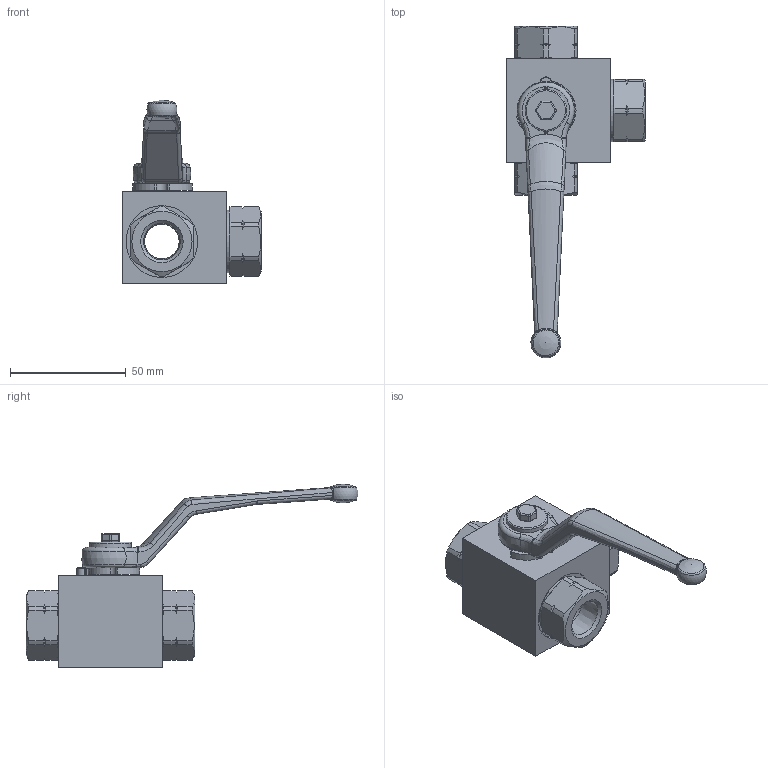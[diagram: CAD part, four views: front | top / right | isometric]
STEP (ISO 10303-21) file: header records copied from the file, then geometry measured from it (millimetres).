
FILE_DESCRIPTION( ( 'Unknown' ), '1' );
FILE_NAME( 'H:/PISTER/3D-MODELLE/BK3-Edelstahl stp/BK3-Edelst DN10 3_8 NPT.stp', 'Unknown', ( 'Unknown' ), ( 'Unknown' ), 'PSStep 14.0', 'Unknown', ' ' );
FILE_SCHEMA( ( 'AUTOMOTIVE_DESIGN { 1 0 10303 214 1 1 1 1 }' ) );
Length unit declared in the file: millimetre
Products named in the file (11): Assem1; 09-09-003; 58-28740-16-oa2; 58-0440-009; 58-0933-235; 03-010-003-oa4; 04-010-051-oa5; 04-010-051-oa6; 56-032-101-oa11; Griff_SW9; 01-010-067-oa12
Assembly tree (10 placements, depth 2):
  Assem1
    09-09-003
    58-28740-16-oa2
    58-0440-009
    58-0933-235
    03-010-003-oa4
    04-010-051-oa5
    04-010-051-oa6
    56-032-101-oa11
    Griff_SW9
    01-010-067-oa12
Bounding box: 60 x 143.5 x 79.3 mm (x, y, z)
Volume: 84945.9 mm3; surface area: 33763.3 mm2
Topology: 10 solids, 10 shells, 402 faces, 1032 edges, 655 vertices
Faces by surface type: cylinder 128, plane 118, cone 82, bspline 36, torus 34, sphere 4
Full cylindrical faces by diameter (mm): 4.2 x1, 4.98 x1, 5 x1, 5.8 x1, 10 x1, 14 x2, 18 x1, 21.1 x1, 22.376 x1, 22.5 x1, 24 x1, 24.35 x1, 25 x2, 27 x3, 31 x3
Entity records: 16983 total; most frequent: CARTESIAN_POINT 4649, ORIENTED_EDGE 1886, DIRECTION 1849, EDGE_CURVE 943, AXIS2_PLACEMENT_3D 760, VERTEX_POINT 624, EDGE_LOOP 484, FACE_OUTER_BOUND 433
